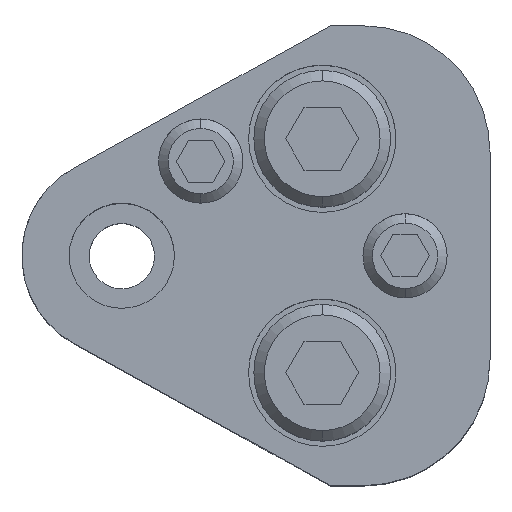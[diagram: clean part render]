
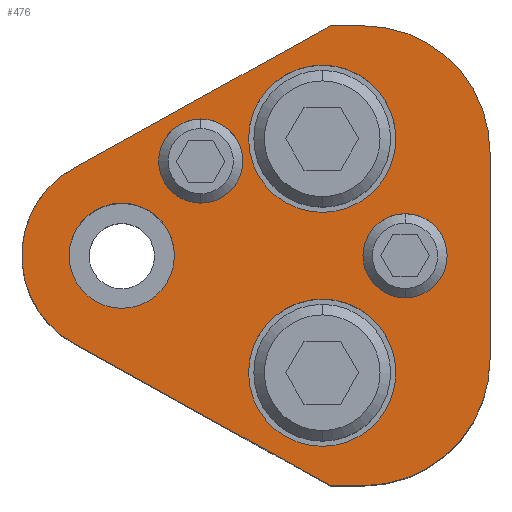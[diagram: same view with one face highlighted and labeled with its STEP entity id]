
A CAD part, top view. The second image highlights one B-rep face of the part: STEP entity #476.
In plain terms, the highlighted planar face has unit normal (0, 0, 1).
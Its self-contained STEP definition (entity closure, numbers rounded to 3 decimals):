
#213=FACE_BOUND('',#843,.T.);
#214=FACE_BOUND('',#844,.T.);
#215=FACE_BOUND('',#845,.T.);
#216=FACE_BOUND('',#846,.T.);
#217=FACE_BOUND('',#847,.T.);
#218=FACE_BOUND('',#848,.T.);
#300=CIRCLE('',#2767,12.);
#302=CIRCLE('',#2771,12.);
#304=CIRCLE('',#2776,4.);
#306=CIRCLE('',#2779,4.);
#308=CIRCLE('',#2782,4.);
#310=CIRCLE('',#2785,4.);
#320=CIRCLE('',#2800,9.5);
#321=CIRCLE('',#2801,7.);
#322=CIRCLE('',#2802,7.);
#323=CIRCLE('',#2803,7.);
#324=CIRCLE('',#2804,7.);
#325=CIRCLE('',#2805,5.);
#326=CIRCLE('',#2806,5.);
#476=ADVANCED_FACE('',(#213,#214,#215,#216,#217,#218),#592,.T.);
#592=PLANE('',#2807);
#843=EDGE_LOOP('',(#1250,#1251,#1252,#1253,#1254,#1255,#1256,#1257));
#844=EDGE_LOOP('',(#1258,#1259));
#845=EDGE_LOOP('',(#1260,#1261));
#846=EDGE_LOOP('',(#1262,#1263));
#847=EDGE_LOOP('',(#1264,#1265));
#848=EDGE_LOOP('',(#1266,#1267));
#1250=ORIENTED_EDGE('',*,*,#2066,.T.);
#1251=ORIENTED_EDGE('',*,*,#2024,.T.);
#1252=ORIENTED_EDGE('',*,*,#2028,.T.);
#1253=ORIENTED_EDGE('',*,*,#2031,.T.);
#1254=ORIENTED_EDGE('',*,*,#2034,.T.);
#1255=ORIENTED_EDGE('',*,*,#2037,.T.);
#1256=ORIENTED_EDGE('',*,*,#2040,.T.);
#1257=ORIENTED_EDGE('',*,*,#2067,.T.);
#1258=ORIENTED_EDGE('',*,*,#2068,.F.);
#1259=ORIENTED_EDGE('',*,*,#2069,.F.);
#1260=ORIENTED_EDGE('',*,*,#2070,.F.);
#1261=ORIENTED_EDGE('',*,*,#2071,.F.);
#1262=ORIENTED_EDGE('',*,*,#2052,.F.);
#1263=ORIENTED_EDGE('',*,*,#2048,.F.);
#1264=ORIENTED_EDGE('',*,*,#2046,.F.);
#1265=ORIENTED_EDGE('',*,*,#2042,.F.);
#1266=ORIENTED_EDGE('',*,*,#2072,.T.);
#1267=ORIENTED_EDGE('',*,*,#2073,.T.);
#1749=VERTEX_POINT('',#4092);
#1750=VERTEX_POINT('',#4094);
#1753=VERTEX_POINT('',#4101);
#1755=VERTEX_POINT('',#4107);
#1757=VERTEX_POINT('',#4113);
#1759=VERTEX_POINT('',#4119);
#1761=VERTEX_POINT('',#4125);
#1762=VERTEX_POINT('',#4130);
#1763=VERTEX_POINT('',#4131);
#1766=VERTEX_POINT('',#4142);
#1767=VERTEX_POINT('',#4143);
#1778=VERTEX_POINT('',#4178);
#1779=VERTEX_POINT('',#4181);
#1780=VERTEX_POINT('',#4182);
#1781=VERTEX_POINT('',#4185);
#1782=VERTEX_POINT('',#4186);
#1783=VERTEX_POINT('',#4189);
#1784=VERTEX_POINT('',#4190);
#2024=EDGE_CURVE('',#1750,#1749,#2332,.T.);
#2028=EDGE_CURVE('',#1749,#1753,#300,.T.);
#2031=EDGE_CURVE('',#1753,#1755,#2337,.T.);
#2034=EDGE_CURVE('',#1755,#1757,#302,.T.);
#2037=EDGE_CURVE('',#1757,#1759,#2341,.T.);
#2040=EDGE_CURVE('',#1759,#1761,#2344,.T.);
#2042=EDGE_CURVE('',#1762,#1763,#304,.T.);
#2046=EDGE_CURVE('',#1763,#1762,#306,.T.);
#2048=EDGE_CURVE('',#1766,#1767,#308,.T.);
#2052=EDGE_CURVE('',#1767,#1766,#310,.T.);
#2066=EDGE_CURVE('',#1778,#1750,#2354,.T.);
#2067=EDGE_CURVE('',#1761,#1778,#320,.T.);
#2068=EDGE_CURVE('',#1779,#1780,#321,.T.);
#2069=EDGE_CURVE('',#1780,#1779,#322,.T.);
#2070=EDGE_CURVE('',#1781,#1782,#323,.T.);
#2071=EDGE_CURVE('',#1782,#1781,#324,.T.);
#2072=EDGE_CURVE('',#1783,#1784,#325,.T.);
#2073=EDGE_CURVE('',#1784,#1783,#326,.T.);
#2332=LINE('',#4093,#2533);
#2337=LINE('',#4108,#2538);
#2341=LINE('',#4120,#2542);
#2344=LINE('',#4126,#2545);
#2354=LINE('',#4177,#2555);
#2533=VECTOR('',#3243,1.);
#2538=VECTOR('',#3256,1.);
#2542=VECTOR('',#3268,1.);
#2545=VECTOR('',#3273,1.);
#2555=VECTOR('',#3333,1.);
#2767=AXIS2_PLACEMENT_3D('',#4102,#3249,#3250);
#2771=AXIS2_PLACEMENT_3D('',#4114,#3261,#3262);
#2776=AXIS2_PLACEMENT_3D('',#4129,#3277,#3278);
#2779=AXIS2_PLACEMENT_3D('',#4138,#3285,#3286);
#2782=AXIS2_PLACEMENT_3D('',#4141,#3291,#3292);
#2785=AXIS2_PLACEMENT_3D('',#4150,#3299,#3300);
#2800=AXIS2_PLACEMENT_3D('',#4179,#3334,#3335);
#2801=AXIS2_PLACEMENT_3D('',#4180,#3336,#3337);
#2802=AXIS2_PLACEMENT_3D('',#4183,#3338,#3339);
#2803=AXIS2_PLACEMENT_3D('',#4184,#3340,#3341);
#2804=AXIS2_PLACEMENT_3D('',#4187,#3342,#3343);
#2805=AXIS2_PLACEMENT_3D('',#4188,#3344,#3345);
#2806=AXIS2_PLACEMENT_3D('',#4191,#3346,#3347);
#2807=AXIS2_PLACEMENT_3D('',#4192,#3348,#3349);
#3243=DIRECTION('',(1.,0.,0.));
#3249=DIRECTION('',(0.,0.,1.));
#3250=DIRECTION('',(-0.707,0.707,0.));
#3256=DIRECTION('',(0.,1.,0.));
#3261=DIRECTION('',(0.,0.,1.));
#3262=DIRECTION('',(-0.707,-0.707,0.));
#3268=DIRECTION('',(-1.,0.,0.));
#3273=DIRECTION('',(-0.875,-0.485,0.));
#3277=DIRECTION('',(0.,0.,1.));
#3278=DIRECTION('',(-1.,0.,0.));
#3285=DIRECTION('',(0.,0.,1.));
#3286=DIRECTION('',(1.,0.,0.));
#3291=DIRECTION('',(0.,0.,1.));
#3292=DIRECTION('',(-1.,0.,0.));
#3299=DIRECTION('',(0.,0.,1.));
#3300=DIRECTION('',(1.,0.,0.));
#3333=DIRECTION('',(0.875,-0.485,0.));
#3334=DIRECTION('',(0.,0.,1.));
#3335=DIRECTION('',(1.,0.,0.));
#3336=DIRECTION('',(0.,0.,1.));
#3337=DIRECTION('',(1.,0.,0.));
#3338=DIRECTION('',(0.,0.,1.));
#3339=DIRECTION('',(-1.,0.,0.));
#3340=DIRECTION('',(0.,0.,1.));
#3341=DIRECTION('',(1.,0.,0.));
#3342=DIRECTION('',(0.,0.,1.));
#3343=DIRECTION('',(-1.,0.,0.));
#3344=DIRECTION('',(0.,0.,-1.));
#3345=DIRECTION('',(-1.,0.,0.));
#3346=DIRECTION('',(0.,0.,-1.));
#3347=DIRECTION('',(1.,0.,0.));
#3348=DIRECTION('',(0.,0.,1.));
#3349=DIRECTION('',(-0.875,0.485,0.));
#4092=CARTESIAN_POINT('',(23.,-21.85,30.));
#4093=CARTESIAN_POINT('',(19.823,-21.85,30.));
#4094=CARTESIAN_POINT('',(19.823,-21.85,30.));
#4101=CARTESIAN_POINT('',(35.,-9.85,30.));
#4102=CARTESIAN_POINT('',(23.,-9.85,30.));
#4107=CARTESIAN_POINT('',(35.,9.85,30.));
#4108=CARTESIAN_POINT('',(35.,9.85,30.));
#4113=CARTESIAN_POINT('',(23.,21.85,30.));
#4114=CARTESIAN_POINT('',(23.,9.85,30.));
#4119=CARTESIAN_POINT('',(19.823,21.85,30.));
#4120=CARTESIAN_POINT('',(19.823,21.85,30.));
#4125=CARTESIAN_POINT('',(-4.606,8.309,30.));
#4126=CARTESIAN_POINT('',(19.823,21.85,30.));
#4129=CARTESIAN_POINT('',(7.5,9.,30.));
#4130=CARTESIAN_POINT('',(7.5,5.,30.));
#4131=CARTESIAN_POINT('',(7.5,13.,30.));
#4138=CARTESIAN_POINT('',(7.5,9.,30.));
#4141=CARTESIAN_POINT('',(26.925,0.,30.));
#4142=CARTESIAN_POINT('',(26.925,-4.,30.));
#4143=CARTESIAN_POINT('',(26.925,4.,30.));
#4150=CARTESIAN_POINT('',(26.925,0.,30.));
#4177=CARTESIAN_POINT('',(19.823,-21.85,30.));
#4178=CARTESIAN_POINT('',(-4.606,-8.309,30.));
#4179=CARTESIAN_POINT('',(0.,0.,30.));
#4180=CARTESIAN_POINT('',(19.05,11.12,30.));
#4181=CARTESIAN_POINT('',(19.05,18.12,30.));
#4182=CARTESIAN_POINT('',(19.05,4.12,30.));
#4183=CARTESIAN_POINT('',(19.05,11.12,30.));
#4184=CARTESIAN_POINT('',(19.05,-11.12,30.));
#4185=CARTESIAN_POINT('',(19.05,-4.12,30.));
#4186=CARTESIAN_POINT('',(19.05,-18.12,30.));
#4187=CARTESIAN_POINT('',(19.05,-11.12,30.));
#4188=CARTESIAN_POINT('',(0.,0.,30.));
#4189=CARTESIAN_POINT('',(0.,5.,30.));
#4190=CARTESIAN_POINT('',(0.,-5.,30.));
#4191=CARTESIAN_POINT('',(0.,0.,30.));
#4192=CARTESIAN_POINT('',(-4.606,-8.309,30.));
